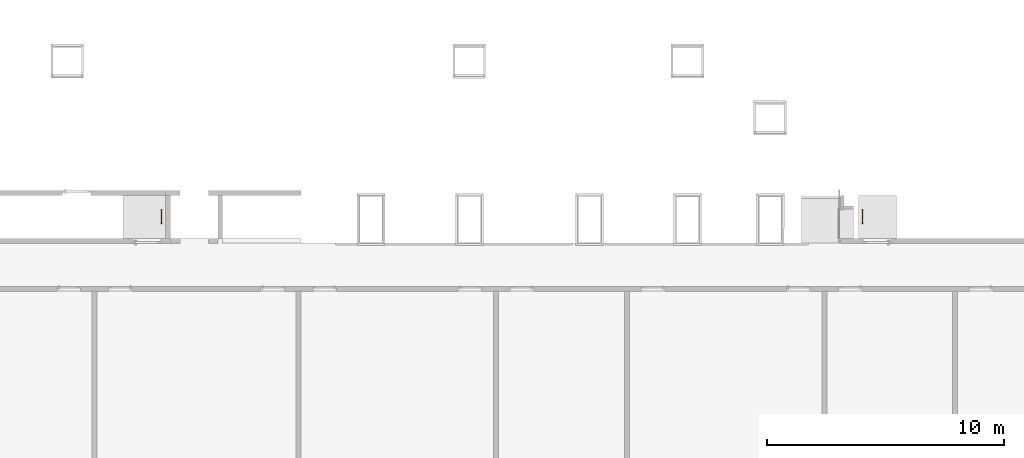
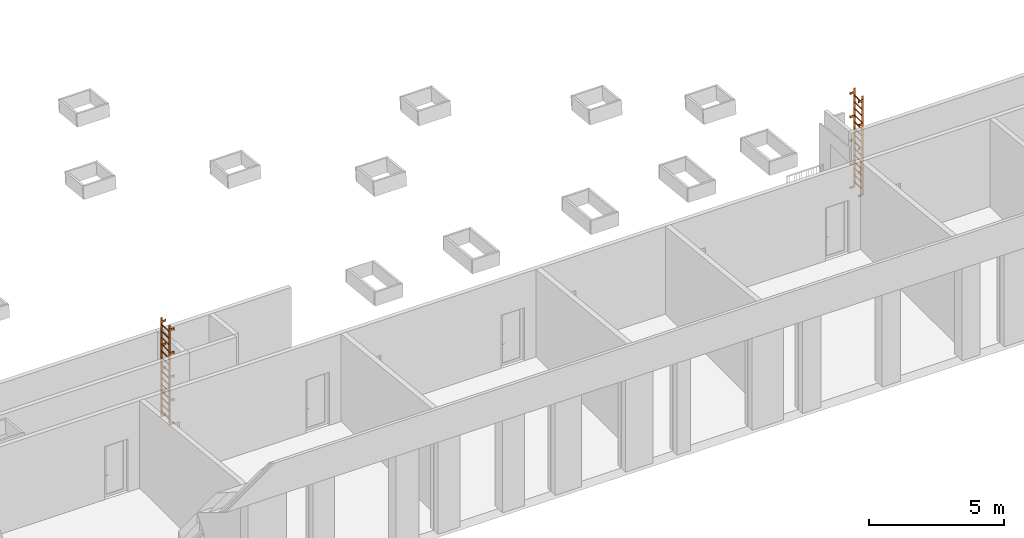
# One storey, part 23 of 23: 2 proxies.
"""IFC2X3 building model written with IfcOpenShell, lengths in millimetres."""

import ifcopenshell
import ifcopenshell.guid

model = None  # the IFC model being written
_history = None  # IfcOwnerHistory: only IFC2X3 demands one
_inside = {}  # id of a spatial element -> (the spatial element, [elements in it])
_under = {}  # id of a project, library or spatial element -> (it, [spatial elements below it])
_declared = {}  # id of a project -> (the project, [libraries it declares])
_typed = {}  # id of a type object -> (the type object, [elements of that type])
_made_of = {}  # id of a material, layer set ... -> (it, [elements and type objects made of it])


def new_model(schema):
    """Start an empty IFC model of exactly this schema.

    Asked for "IFC4X3", IfcOpenShell would pick the latest addendum, in which some entities
    have other attributes; the version numbers below select the first issue.
    IFC2X3 requires an IfcOwnerHistory on every rooted entity: one is made here for all.
    """
    global model, _history
    if schema == "IFC4X3":
        model = ifcopenshell.file(schema_version=(4, 3, 0, 0))
    else:
        model = ifcopenshell.file(schema=schema)
    _inside.clear()
    _under.clear()
    _declared.clear()
    _typed.clear()
    _made_of.clear()
    _history = None
    if model.schema == "IFC2X3":
        org = make("IfcOrganization", Name="unknown")
        user = make(
            "IfcPersonAndOrganization",
            ThePerson=make("IfcPerson", FamilyName="unknown"),
            TheOrganization=org,
        )
        app = make(
            "IfcApplication",
            ApplicationDeveloper=org,
            Version="unknown",
            ApplicationFullName="unknown",
            ApplicationIdentifier="unknown",
        )
        _history = make(
            "IfcOwnerHistory",
            OwningUser=user,
            OwningApplication=app,
            ChangeAction="ADDED",
            CreationDate=0,
        )
    return model


def make(cls, **values):
    """One entity of the class cls with the attributes given. An attribute that is None is left unset."""
    return model.create_entity(
        cls, **{name: value for name, value in values.items() if value is not None}
    )


def entity(cls, *values):
    """Any entity or typed value of the class cls, its attributes in the order of the schema. None: left unset."""
    e = model.create_entity(cls)
    for i, value in enumerate(values):
        if value is not None:
            e[i] = value
    return e


def rooted(cls, **values):
    """An entity with a GlobalId (a new one), such as an element, a storey or a relation."""
    return make(cls, GlobalId=ifcopenshell.guid.new(), OwnerHistory=_history, **values)


def si_unit(unit_type, name, prefix=None):
    """IfcSIUnit, for example si_unit("LENGTHUNIT", "METRE", prefix="MILLI")."""
    return make("IfcSIUnit", UnitType=unit_type, Prefix=prefix, Name=name)


def converted_unit(unit_type, name, factor, base, dimensions=None, offset=None):
    """IfcConversionBasedUnit, such as the inch: factor (a typed value) times the base unit."""
    return make(
        "IfcConversionBasedUnit"
        if offset is None
        else "IfcConversionBasedUnitWithOffset",
        ConversionOffset=offset,
        Dimensions=None
        if dimensions is None
        else entity("IfcDimensionalExponents", *dimensions),
        UnitType=unit_type,
        Name=name,
        ConversionFactor=make(
            "IfcMeasureWithUnit", ValueComponent=factor, UnitComponent=base
        ),
    )


def derived_unit(unit_type, elements):
    """IfcDerivedUnit: a product of units, each with its exponent."""
    return make(
        "IfcDerivedUnit",
        Elements=[
            make("IfcDerivedUnitElement", Unit=unit, Exponent=power)
            for unit, power in elements
        ],
        UnitType=unit_type,
    )


def money_unit(currency):
    """IfcMonetaryUnit."""
    return make("IfcMonetaryUnit", Currency=currency)


def assignment(units):
    """IfcUnitAssignment: the units of a project."""
    return None if units is None else make("IfcUnitAssignment", Units=units)


def point(xyz):
    """IfcCartesianPoint."""
    return None if xyz is None else make("IfcCartesianPoint", Coordinates=xyz)


def direction(xyz):
    """IfcDirection."""
    return None if xyz is None else make("IfcDirection", DirectionRatios=xyz)


def frame(location, z_axis=None, x_axis=None):
    """IfcAxis2Placement3D, a coordinate frame: its origin and axes. An axis left out is left unset."""
    return make(
        "IfcAxis2Placement3D",
        Location=point(location),
        Axis=direction(z_axis),
        RefDirection=direction(x_axis),
    )


def origin_with_axes():
    """The frame at (0, 0, 0) with the z axis (0, 0, 1) and the x axis (1, 0, 0) written out."""
    return frame((0.0, 0.0, 0.0), z_axis=(0.0, 0.0, 1.0), x_axis=(1.0, 0.0, 0.0))


def place(relative_to, where):
    """IfcLocalPlacement: puts the frame where relative to a parent placement (None: the world)."""
    return make(
        "IfcLocalPlacement", PlacementRelTo=relative_to, RelativePlacement=where
    )


def context(
    kind, dimensions, precision=None, world=None, true_north=None, identifier=None
):
    """IfcGeometricRepresentationContext, for example the 3D "Model" context."""
    return make(
        "IfcGeometricRepresentationContext",
        ContextIdentifier=identifier,
        ContextType=kind,
        CoordinateSpaceDimension=dimensions,
        Precision=precision,
        WorldCoordinateSystem=world,
        TrueNorth=true_north,
    )


def subcontext(parent, identifier, kind, view, scale=None):
    """IfcGeometricRepresentationSubContext, for example "Body" below "Model"."""
    return make(
        "IfcGeometricRepresentationSubContext",
        ContextIdentifier=identifier,
        ContextType=kind,
        ParentContext=parent,
        TargetScale=scale,
        TargetView=view,
    )


def project(units=None, contexts=None):
    """IfcProject with its units and contexts."""
    return rooted(
        "IfcProject",
        Name="project",
        RepresentationContexts=contexts,
        UnitsInContext=assignment(units),
    )


def spatial(cls, under=None, at=None, **own):
    """A site, building, storey or space (cls), placed at a placement, below another one or the project."""
    s = rooted(cls, ObjectPlacement=at, **own)
    if under is not None:
        _under.setdefault(under.id(), (under, []))[1].append(s)
    return s


def faces_of(points, faces, orient=None, outer=None):
    """IfcFace entities. A face is a list of loops; a loop is a list of indices into points, from 0.

    orient and outer hold one flag for each loop. By default every Orientation is true, the
    first loop of a face is its IfcFaceOuterBound and the others are IfcFaceBound.
    """
    made = []
    for i, loops in enumerate(faces):
        bounds = []
        for j, loop in enumerate(loops):
            is_outer = j == 0 if outer is None else outer[i][j]
            bounds.append(
                make(
                    "IfcFaceOuterBound" if is_outer else "IfcFaceBound",
                    Bound=make("IfcPolyLoop", Polygon=[points[k] for k in loop]),
                    Orientation=True if orient is None else orient[i][j],
                )
            )
        made.append(make("IfcFace", Bounds=bounds))
    return made


def faceted_brep(points, faces, orient=None, outer=None, voids=None):
    """IfcFacetedBrep: a solid bounded by flat faces; with voids (closed shells), ...WithVoids."""
    shared = [point(p) for p in points]
    hull = make("IfcClosedShell", CfsFaces=faces_of(shared, faces, orient, outer))
    if voids is None:
        return make("IfcFacetedBrep", Outer=hull)
    return make(
        "IfcFacetedBrepWithVoids",
        Outer=hull,
        Voids=[
            make(cls, CfsFaces=faces_of(shared, fs, o, b)) for cls, fs, o, b in voids
        ],
    )


def shape(context_of_items, identifier, shape_type, items):
    """IfcShapeRepresentation: the items that make up one representation, for example the "Body"."""
    return make(
        "IfcShapeRepresentation",
        ContextOfItems=context_of_items,
        RepresentationIdentifier=identifier,
        RepresentationType=shape_type,
        Items=items,
    )


def made_of(thing, what):
    """Note that an element or type object is made of a material, layer set ...; save() writes the relation."""
    if what is not None:
        _made_of.setdefault(what.id(), (what, []))[1].append(thing)
    return thing


def type_object(cls, material=None, **own):
    """A type object (cls), such as IfcWallType, which elements share."""
    return made_of(rooted(cls, **own), material)


def element(
    cls,
    number,
    at=None,
    inside=None,
    cuts=None,
    type_object=None,
    material=None,
    context=None,
    identifier="Body",
    shape_type=None,
    held_by="IfcProductDefinitionShape",
    body=None,
    shapes=None,
    **own,
):
    """One element of the class cls, such as IfcWall. Its Tag is "e" and its number.

    at: its placement. inside: the storey or other place that contains it. cuts: it is an
    opening in that element (IfcRelVoidsElement). A single representation is given by context,
    identifier, shape_type and body (its items); several are given by shapes. held_by: the class
    of the entity that holds the representations. save() writes the other relations.
    """
    e = rooted(cls, Tag="e%d" % number, ObjectPlacement=at, **own)
    if body is not None:
        shapes = [shape(context, identifier, shape_type, body)]
    if shapes is not None:
        e.Representation = make(held_by, Representations=shapes)
    if inside is not None:
        _inside.setdefault(inside.id(), (inside, []))[1].append(e)
    if cuts is not None:
        rooted(
            "IfcRelVoidsElement", RelatingBuildingElement=cuts, RelatedOpeningElement=e
        )
    if type_object is not None:
        _typed.setdefault(type_object.id(), (type_object, []))[1].append(e)
    return made_of(e, material)


def aggregate(whole, parts):
    """IfcRelAggregates: a whole, such as a stair, and the parts it consists of."""
    return rooted("IfcRelAggregates", RelatingObject=whole, RelatedObjects=parts)


def save(model, path):
    """Write the relations noted so far, then the file.

    IfcRelAggregates (storeys below a building ...), IfcRelContainedInSpatialStructure (elements
    in a storey), IfcRelDefinesByType, IfcRelAssociatesMaterial and IfcRelDeclares: one each for
    every whole, place, type object, material and project.
    """
    for whole, parts in _under.values():
        aggregate(whole, parts)
    for where, things in _inside.values():
        rooted(
            "IfcRelContainedInSpatialStructure",
            RelatedElements=things,
            RelatingStructure=where,
        )
    for kind, things in _typed.values():
        rooted("IfcRelDefinesByType", RelatedObjects=things, RelatingType=kind)
    for what, things in _made_of.values():
        rooted("IfcRelAssociatesMaterial", RelatedObjects=things, RelatingMaterial=what)
    for by, libraries in _declared.values():
        rooted("IfcRelDeclares", RelatingContext=by, RelatedDefinitions=libraries)
    model.write(path)


model = new_model("IFC2X3")

# Units and contexts
model_context = context("Model", 3, precision=0.01, world=origin_with_axes(), true_north=direction((0.0, 1.0)))
body_context = subcontext(model_context, "Body", "Model", "MODEL_VIEW")
ifc_project = project(units=[si_unit("LENGTHUNIT", "METRE", prefix="MILLI"), si_unit("AREAUNIT", "SQUARE_METRE"), si_unit("VOLUMEUNIT", "CUBIC_METRE"), converted_unit("PLANEANGLEUNIT", "DEGREE", entity("IfcPlaneAngleMeasure", 0.0174532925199), si_unit("PLANEANGLEUNIT", "RADIAN"), dimensions=[0, 0, 0, 0, 0, 0, 0]), si_unit("SOLIDANGLEUNIT", "STERADIAN"), money_unit("EUR"), converted_unit("TIMEUNIT", "Year", entity("IfcTimeMeasure", 31556926.0), si_unit("TIMEUNIT", "SECOND"), dimensions=[0, 0, 1, 0, 0, 0, 0]), si_unit("MASSUNIT", "GRAM", prefix="KILO"), si_unit("THERMODYNAMICTEMPERATUREUNIT", "DEGREE_CELSIUS"), si_unit("LUMINOUSINTENSITYUNIT", "LUMEN"), si_unit("ENERGYUNIT", "JOULE", prefix="MEGA"), derived_unit("THERMALCONDUCTANCEUNIT", [(si_unit("POWERUNIT", "WATT"), 1), (si_unit("LENGTHUNIT", "METRE"), -1), (si_unit("THERMODYNAMICTEMPERATUREUNIT", "KELVIN"), -1)]), derived_unit("SPECIFICHEATCAPACITYUNIT", [(si_unit("ENERGYUNIT", "JOULE"), 1), (si_unit("MASSUNIT", "GRAM", prefix="KILO"), -1), (si_unit("THERMODYNAMICTEMPERATUREUNIT", "KELVIN"), -1)]), derived_unit("MASSDENSITYUNIT", [(si_unit("MASSUNIT", "GRAM", prefix="KILO"), 1), (si_unit("VOLUMEUNIT", "CUBIC_METRE"), -1)])], contexts=[model_context])

# Site, building, storey
site_placement = place(None, origin_with_axes())
site = spatial("IfcSite", under=ifc_project, at=site_placement, Name="L.Koidula tn 11b", CompositionType="ELEMENT")
building_placement = place(site_placement, origin_with_axes())
building = spatial("IfcBuilding", under=site, at=building_placement, Name="Rakvere Riigigümnaasium", CompositionType="ELEMENT")
storey_placement = place(building_placement, frame((0.0, 0.0, 7440.0), z_axis=(0.0, 0.0, 1.0), x_axis=(1.0, 0.0, 0.0)))
storey = spatial("IfcBuildingStorey", under=building, at=storey_placement, Name="3.korrus +7,44", CompositionType="ELEMENT", Elevation=7440.0)

# Proxies
building_element_proxy_type = type_object("IfcBuildingElementProxyType", Name="Wall Mounted Ladder 23", PredefinedType="NOTDEFINED")
proxy_1_placement = place(storey_placement, frame((46999.9999935, 16208.5416696, 0.0), z_axis=(0.0, 0.0, 1.0), x_axis=(0.0, -1.0, 0.0)))
element("IfcBuildingElementProxy", 1, at=proxy_1_placement, inside=storey, type_object=building_element_proxy_type, Name="R-01", context=body_context, shape_type="Brep", body=[
    faceted_brep([(350.8, 0.0, 101.6), (350.8, 0.0, 203.2), (350.8, -12.7, 203.2), (350.8, -12.7, 101.6), (300.0, 0.0, 101.6), (300.0, 0.0, 203.2), (300.0, -215.9, 203.2), (312.7, -215.9, 203.2), (312.7, -12.7, 203.2), (312.7, -12.7, 101.6), (312.7, -215.9, 101.6), (300.0, -215.9, 101.6)], [[[0, 1, 2, 3]], [[4, 5, 1, 0]], [[1, 5, 6, 7, 8, 2]], [[3, 2, 8, 9]], [[0, 3, 9, 10, 11, 4]], [[11, 6, 5, 4]], [[10, 7, 6, 11]], [[9, 8, 7, 10]]]),
    faceted_brep([(350.8, 0.0, 1163.1), (350.8, 0.0, 1264.7), (350.8, -12.7, 1264.7), (350.8, -12.7, 1163.1), (300.0, 0.0, 1163.1), (300.0, 0.0, 1264.7), (300.0, -215.9, 1264.7), (312.7, -215.9, 1264.7), (312.7, -12.7, 1264.7), (312.7, -12.7, 1163.1), (312.7, -215.9, 1163.1), (300.0, -215.9, 1163.1)], [[[0, 1, 2, 3]], [[4, 5, 1, 0]], [[1, 5, 6, 7, 8, 2]], [[3, 2, 8, 9]], [[0, 3, 9, 10, 11, 4]], [[11, 6, 5, 4]], [[10, 7, 6, 11]], [[9, 8, 7, 10]]]),
    faceted_brep([(350.8, 0.0, 2224.6), (350.8, 0.0, 2326.2), (350.8, -12.7, 2326.2), (350.8, -12.7, 2224.6), (300.0, 0.0, 2224.6), (300.0, 0.0, 2326.2), (300.0, -215.9, 2326.2), (312.7, -215.9, 2326.2), (312.7, -12.7, 2326.2), (312.7, -12.7, 2224.6), (312.7, -215.9, 2224.6), (300.0, -215.9, 2224.6)], [[[0, 1, 2, 3]], [[4, 5, 1, 0]], [[1, 5, 6, 7, 8, 2]], [[3, 2, 8, 9]], [[0, 3, 9, 10, 11, 4]], [[11, 6, 5, 4]], [[10, 7, 6, 11]], [[9, 8, 7, 10]]]),
    faceted_brep([(350.8, 0.0, 3286.1), (350.8, 0.0, 3387.7), (350.8, -12.7, 3387.7), (350.8, -12.7, 3286.1), (300.0, 0.0, 3286.1), (300.0, 0.0, 3387.7), (300.0, -215.9, 3387.7), (312.7, -215.9, 3387.7), (312.7, -12.7, 3387.7), (312.7, -12.7, 3286.1), (312.7, -215.9, 3286.1), (300.0, -215.9, 3286.1)], [[[0, 1, 2, 3]], [[4, 5, 1, 0]], [[1, 5, 6, 7, 8, 2]], [[3, 2, 8, 9]], [[0, 3, 9, 10, 11, 4]], [[11, 6, 5, 4]], [[10, 7, 6, 11]], [[9, 8, 7, 10]]]),
    faceted_brep([(350.8, 0.0, 4347.6), (350.8, 0.0, 4449.2), (350.8, -12.7, 4449.2), (350.8, -12.7, 4347.6), (300.0, 0.0, 4347.6), (300.0, 0.0, 4449.2), (300.0, -215.9, 4449.2), (312.7, -215.9, 4449.2), (312.7, -12.7, 4449.2), (312.7, -12.7, 4347.6), (312.7, -215.9, 4347.6), (300.0, -215.9, 4347.6)], [[[0, 1, 2, 3]], [[4, 5, 1, 0]], [[1, 5, 6, 7, 8, 2]], [[3, 2, 8, 9]], [[0, 3, 9, 10, 11, 4]], [[11, 6, 5, 4]], [[10, 7, 6, 11]], [[9, 8, 7, 10]]]),
    faceted_brep([(-300.0, 0.0, 101.6), (-300.0, 0.0, 203.2), (-300.0, -215.9, 203.2), (-300.0, -215.9, 101.6), (-350.8, 0.0, 101.6), (-350.8, 0.0, 203.2), (-350.8, -12.7, 203.2), (-312.7, -12.7, 203.2), (-312.7, -215.9, 203.2), (-312.7, -215.9, 101.6), (-312.7, -12.7, 101.6), (-350.8, -12.7, 101.6)], [[[0, 1, 2, 3]], [[4, 5, 1, 0]], [[1, 5, 6, 7, 8, 2]], [[3, 2, 8, 9]], [[0, 3, 9, 10, 11, 4]], [[11, 6, 5, 4]], [[10, 7, 6, 11]], [[9, 8, 7, 10]]]),
    faceted_brep([(-300.0, 0.0, 1163.1), (-300.0, 0.0, 1264.7), (-300.0, -215.9, 1264.7), (-300.0, -215.9, 1163.1), (-350.8, 0.0, 1163.1), (-350.8, 0.0, 1264.7), (-350.8, -12.7, 1264.7), (-312.7, -12.7, 1264.7), (-312.7, -215.9, 1264.7), (-312.7, -215.9, 1163.1), (-312.7, -12.7, 1163.1), (-350.8, -12.7, 1163.1)], [[[0, 1, 2, 3]], [[4, 5, 1, 0]], [[1, 5, 6, 7, 8, 2]], [[3, 2, 8, 9]], [[0, 3, 9, 10, 11, 4]], [[11, 6, 5, 4]], [[10, 7, 6, 11]], [[9, 8, 7, 10]]]),
    faceted_brep([(-300.0, 0.0, 2224.6), (-300.0, 0.0, 2326.2), (-300.0, -215.9, 2326.2), (-300.0, -215.9, 2224.6), (-350.8, 0.0, 2224.6), (-350.8, 0.0, 2326.2), (-350.8, -12.7, 2326.2), (-312.7, -12.7, 2326.2), (-312.7, -215.9, 2326.2), (-312.7, -215.9, 2224.6), (-312.7, -12.7, 2224.6), (-350.8, -12.7, 2224.6)], [[[0, 1, 2, 3]], [[4, 5, 1, 0]], [[1, 5, 6, 7, 8, 2]], [[3, 2, 8, 9]], [[0, 3, 9, 10, 11, 4]], [[11, 6, 5, 4]], [[10, 7, 6, 11]], [[9, 8, 7, 10]]]),
    faceted_brep([(-300.0, 0.0, 3286.1), (-300.0, 0.0, 3387.7), (-300.0, -215.9, 3387.7), (-300.0, -215.9, 3286.1), (-350.8, 0.0, 3286.1), (-350.8, 0.0, 3387.7), (-350.8, -12.7, 3387.7), (-312.7, -12.7, 3387.7), (-312.7, -215.9, 3387.7), (-312.7, -215.9, 3286.1), (-312.7, -12.7, 3286.1), (-350.8, -12.7, 3286.1)], [[[0, 1, 2, 3]], [[4, 5, 1, 0]], [[1, 5, 6, 7, 8, 2]], [[3, 2, 8, 9]], [[0, 3, 9, 10, 11, 4]], [[11, 6, 5, 4]], [[10, 7, 6, 11]], [[9, 8, 7, 10]]]),
    faceted_brep([(-300.0, 0.0, 4347.6), (-300.0, 0.0, 4449.2), (-300.0, -215.9, 4449.2), (-300.0, -215.9, 4347.6), (-350.8, 0.0, 4347.6), (-350.8, 0.0, 4449.2), (-350.8, -12.7, 4449.2), (-312.7, -12.7, 4449.2), (-312.7, -215.9, 4449.2), (-312.7, -215.9, 4347.6), (-312.7, -12.7, 4347.6), (-350.8, -12.7, 4347.6)], [[[0, 1, 2, 3]], [[4, 5, 1, 0]], [[1, 5, 6, 7, 8, 2]], [[3, 2, 8, 9]], [[0, 3, 9, 10, 11, 4]], [[11, 6, 5, 4]], [[10, 7, 6, 11]], [[9, 8, 7, 10]]]),
    faceted_brep([(300.0, -215.9, 203.2), (300.0, -215.9, 4601.6), (287.3, -215.9, 4601.6), (287.3, -215.9, 203.2), (300.0, -139.7, 203.2), (300.0, -139.7, 4601.6), (287.3, -139.7, 4601.6), (287.3, -139.7, 203.2)], [[[0, 1, 2, 3]], [[4, 5, 1, 0]], [[1, 5, 6, 2]], [[3, 2, 6, 7]], [[0, 3, 7, 4]], [[7, 6, 5, 4]]]),
    faceted_brep([(-300.0, -139.7, 203.2), (-300.0, -139.7, 4601.6), (-287.3, -139.7, 4601.6), (-287.3, -139.7, 203.2), (-300.0, -215.9, 203.2), (-300.0, -215.9, 4601.6), (-287.3, -215.9, 4601.6), (-287.3, -215.9, 203.2)], [[[0, 1, 2, 3]], [[4, 5, 1, 0]], [[1, 5, 6, 2]], [[3, 2, 6, 7]], [[0, 3, 7, 4]], [[7, 6, 5, 4]]]),
    faceted_brep([(-287.3, -196.85, 371.6), (-287.3, -196.85, 401.6), (-287.3, -158.75, 401.6), (-287.3, -158.75, 371.6), (287.3, -196.85, 371.6), (287.3, -196.85, 401.6), (287.3, -158.75, 401.6), (287.3, -158.75, 371.6)], [[[0, 1, 2, 3]], [[4, 5, 1, 0]], [[1, 5, 6, 2]], [[3, 2, 6, 7]], [[0, 3, 7, 4]], [[7, 6, 5, 4]]]),
    faceted_brep([(-287.3, -196.85, 671.6), (-287.3, -196.85, 701.6), (-287.3, -158.75, 701.6), (-287.3, -158.75, 671.6), (287.3, -196.85, 671.6), (287.3, -196.85, 701.6), (287.3, -158.75, 701.6), (287.3, -158.75, 671.6)], [[[0, 1, 2, 3]], [[4, 5, 1, 0]], [[1, 5, 6, 2]], [[3, 2, 6, 7]], [[0, 3, 7, 4]], [[7, 6, 5, 4]]]),
    faceted_brep([(-287.3, -196.85, 971.6), (-287.3, -196.85, 1001.6), (-287.3, -158.75, 1001.6), (-287.3, -158.75, 971.6), (287.3, -196.85, 971.6), (287.3, -196.85, 1001.6), (287.3, -158.75, 1001.6), (287.3, -158.75, 971.6)], [[[0, 1, 2, 3]], [[4, 5, 1, 0]], [[1, 5, 6, 2]], [[3, 2, 6, 7]], [[0, 3, 7, 4]], [[7, 6, 5, 4]]]),
    faceted_brep([(-287.3, -196.85, 1271.6), (-287.3, -196.85, 1301.6), (-287.3, -158.75, 1301.6), (-287.3, -158.75, 1271.6), (287.3, -196.85, 1271.6), (287.3, -196.85, 1301.6), (287.3, -158.75, 1301.6), (287.3, -158.75, 1271.6)], [[[0, 1, 2, 3]], [[4, 5, 1, 0]], [[1, 5, 6, 2]], [[3, 2, 6, 7]], [[0, 3, 7, 4]], [[7, 6, 5, 4]]]),
    faceted_brep([(-287.3, -196.85, 1571.6), (-287.3, -196.85, 1601.6), (-287.3, -158.75, 1601.6), (-287.3, -158.75, 1571.6), (287.3, -196.85, 1571.6), (287.3, -196.85, 1601.6), (287.3, -158.75, 1601.6), (287.3, -158.75, 1571.6)], [[[0, 1, 2, 3]], [[4, 5, 1, 0]], [[1, 5, 6, 2]], [[3, 2, 6, 7]], [[0, 3, 7, 4]], [[7, 6, 5, 4]]]),
    faceted_brep([(-287.3, -196.85, 1871.6), (-287.3, -196.85, 1901.6), (-287.3, -158.75, 1901.6), (-287.3, -158.75, 1871.6), (287.3, -196.85, 1871.6), (287.3, -196.85, 1901.6), (287.3, -158.75, 1901.6), (287.3, -158.75, 1871.6)], [[[0, 1, 2, 3]], [[4, 5, 1, 0]], [[1, 5, 6, 2]], [[3, 2, 6, 7]], [[0, 3, 7, 4]], [[7, 6, 5, 4]]]),
    faceted_brep([(-287.3, -196.85, 2171.6), (-287.3, -196.85, 2201.6), (-287.3, -158.75, 2201.6), (-287.3, -158.75, 2171.6), (287.3, -196.85, 2171.6), (287.3, -196.85, 2201.6), (287.3, -158.75, 2201.6), (287.3, -158.75, 2171.6)], [[[0, 1, 2, 3]], [[4, 5, 1, 0]], [[1, 5, 6, 2]], [[3, 2, 6, 7]], [[0, 3, 7, 4]], [[7, 6, 5, 4]]]),
    faceted_brep([(-287.3, -196.85, 2471.6), (-287.3, -196.85, 2501.6), (-287.3, -158.75, 2501.6), (-287.3, -158.75, 2471.6), (287.3, -196.85, 2471.6), (287.3, -196.85, 2501.6), (287.3, -158.75, 2501.6), (287.3, -158.75, 2471.6)], [[[0, 1, 2, 3]], [[4, 5, 1, 0]], [[1, 5, 6, 2]], [[3, 2, 6, 7]], [[0, 3, 7, 4]], [[7, 6, 5, 4]]]),
    faceted_brep([(-287.3, -196.85, 2771.6), (-287.3, -196.85, 2801.6), (-287.3, -158.75, 2801.6), (-287.3, -158.75, 2771.6), (287.3, -196.85, 2771.6), (287.3, -196.85, 2801.6), (287.3, -158.75, 2801.6), (287.3, -158.75, 2771.6)], [[[0, 1, 2, 3]], [[4, 5, 1, 0]], [[1, 5, 6, 2]], [[3, 2, 6, 7]], [[0, 3, 7, 4]], [[7, 6, 5, 4]]]),
    faceted_brep([(-287.3, -196.85, 3071.6), (-287.3, -196.85, 3101.6), (-287.3, -158.75, 3101.6), (-287.3, -158.75, 3071.6), (287.3, -196.85, 3071.6), (287.3, -196.85, 3101.6), (287.3, -158.75, 3101.6), (287.3, -158.75, 3071.6)], [[[0, 1, 2, 3]], [[4, 5, 1, 0]], [[1, 5, 6, 2]], [[3, 2, 6, 7]], [[0, 3, 7, 4]], [[7, 6, 5, 4]]]),
    faceted_brep([(-287.3, -196.85, 3371.6), (-287.3, -196.85, 3401.6), (-287.3, -158.75, 3401.6), (-287.3, -158.75, 3371.6), (287.3, -196.85, 3371.6), (287.3, -196.85, 3401.6), (287.3, -158.75, 3401.6), (287.3, -158.75, 3371.6)], [[[0, 1, 2, 3]], [[4, 5, 1, 0]], [[1, 5, 6, 2]], [[3, 2, 6, 7]], [[0, 3, 7, 4]], [[7, 6, 5, 4]]]),
    faceted_brep([(-287.3, -196.85, 3671.6), (-287.3, -196.85, 3701.6), (-287.3, -158.75, 3701.6), (-287.3, -158.75, 3671.6), (287.3, -196.85, 3671.6), (287.3, -196.85, 3701.6), (287.3, -158.75, 3701.6), (287.3, -158.75, 3671.6)], [[[0, 1, 2, 3]], [[4, 5, 1, 0]], [[1, 5, 6, 2]], [[3, 2, 6, 7]], [[0, 3, 7, 4]], [[7, 6, 5, 4]]]),
    faceted_brep([(-287.3, -196.85, 3971.6), (-287.3, -196.85, 4001.6), (-287.3, -158.75, 4001.6), (-287.3, -158.75, 3971.6), (287.3, -196.85, 3971.6), (287.3, -196.85, 4001.6), (287.3, -158.75, 4001.6), (287.3, -158.75, 3971.6)], [[[0, 1, 2, 3]], [[4, 5, 1, 0]], [[1, 5, 6, 2]], [[3, 2, 6, 7]], [[0, 3, 7, 4]], [[7, 6, 5, 4]]]),
    faceted_brep([(-287.3, -196.85, 4271.6), (-287.3, -196.85, 4301.6), (-287.3, -158.75, 4301.6), (-287.3, -158.75, 4271.6), (287.3, -196.85, 4271.6), (287.3, -196.85, 4301.6), (287.3, -158.75, 4301.6), (287.3, -158.75, 4271.6)], [[[0, 1, 2, 3]], [[4, 5, 1, 0]], [[1, 5, 6, 2]], [[3, 2, 6, 7]], [[0, 3, 7, 4]], [[7, 6, 5, 4]]]),
])
proxy_2_placement = place(storey_placement, frame((76189.9821418, 16208.541671, 0.0), z_axis=(0.0, 0.0, 1.0), x_axis=(0.0, 1.0, 0.0)))
element("IfcBuildingElementProxy", 2, at=proxy_2_placement, inside=storey, type_object=building_element_proxy_type, Name="R-02", context=body_context, shape_type="Brep", body=[
    faceted_brep([(-350.8, 0.0, 101.6), (-350.8, -12.7, 101.6), (-350.8, -12.7, 203.2), (-350.8, 0.0, 203.2), (-300.0, 0.0, 101.6), (-300.0, -215.9, 101.6), (-312.7, -215.9, 101.6), (-312.7, -12.7, 101.6), (-312.7, -12.7, 203.2), (-312.7, -215.9, 203.2), (-300.0, -215.9, 203.2), (-300.0, 0.0, 203.2)], [[[0, 1, 2, 3]], [[0, 4, 5, 6, 7, 1]], [[1, 7, 8, 2]], [[3, 2, 8, 9, 10, 11]], [[4, 0, 3, 11]], [[5, 4, 11, 10]], [[6, 5, 10, 9]], [[7, 6, 9, 8]]]),
    faceted_brep([(-350.8, 0.0, 1163.1), (-350.8, -12.7, 1163.1), (-350.8, -12.7, 1264.7), (-350.8, 0.0, 1264.7), (-300.0, 0.0, 1163.1), (-300.0, -215.9, 1163.1), (-312.7, -215.9, 1163.1), (-312.7, -12.7, 1163.1), (-312.7, -12.7, 1264.7), (-312.7, -215.9, 1264.7), (-300.0, -215.9, 1264.7), (-300.0, 0.0, 1264.7)], [[[0, 1, 2, 3]], [[0, 4, 5, 6, 7, 1]], [[1, 7, 8, 2]], [[3, 2, 8, 9, 10, 11]], [[4, 0, 3, 11]], [[5, 4, 11, 10]], [[6, 5, 10, 9]], [[7, 6, 9, 8]]]),
    faceted_brep([(-350.8, 0.0, 2224.6), (-350.8, -12.7, 2224.6), (-350.8, -12.7, 2326.2), (-350.8, 0.0, 2326.2), (-300.0, 0.0, 2224.6), (-300.0, -215.9, 2224.6), (-312.7, -215.9, 2224.6), (-312.7, -12.7, 2224.6), (-312.7, -12.7, 2326.2), (-312.7, -215.9, 2326.2), (-300.0, -215.9, 2326.2), (-300.0, 0.0, 2326.2)], [[[0, 1, 2, 3]], [[0, 4, 5, 6, 7, 1]], [[1, 7, 8, 2]], [[3, 2, 8, 9, 10, 11]], [[4, 0, 3, 11]], [[5, 4, 11, 10]], [[6, 5, 10, 9]], [[7, 6, 9, 8]]]),
    faceted_brep([(-350.8, 0.0, 3286.1), (-350.8, -12.7, 3286.1), (-350.8, -12.7, 3387.7), (-350.8, 0.0, 3387.7), (-300.0, 0.0, 3286.1), (-300.0, -215.9, 3286.1), (-312.7, -215.9, 3286.1), (-312.7, -12.7, 3286.1), (-312.7, -12.7, 3387.7), (-312.7, -215.9, 3387.7), (-300.0, -215.9, 3387.7), (-300.0, 0.0, 3387.7)], [[[0, 1, 2, 3]], [[0, 4, 5, 6, 7, 1]], [[1, 7, 8, 2]], [[3, 2, 8, 9, 10, 11]], [[4, 0, 3, 11]], [[5, 4, 11, 10]], [[6, 5, 10, 9]], [[7, 6, 9, 8]]]),
    faceted_brep([(-350.8, 0.0, 4347.6), (-350.8, -12.7, 4347.6), (-350.8, -12.7, 4449.2), (-350.8, 0.0, 4449.2), (-300.0, 0.0, 4347.6), (-300.0, -215.9, 4347.6), (-312.7, -215.9, 4347.6), (-312.7, -12.7, 4347.6), (-312.7, -12.7, 4449.2), (-312.7, -215.9, 4449.2), (-300.0, -215.9, 4449.2), (-300.0, 0.0, 4449.2)], [[[0, 1, 2, 3]], [[0, 4, 5, 6, 7, 1]], [[1, 7, 8, 2]], [[3, 2, 8, 9, 10, 11]], [[4, 0, 3, 11]], [[5, 4, 11, 10]], [[6, 5, 10, 9]], [[7, 6, 9, 8]]]),
    faceted_brep([(300.0, 0.0, 101.6), (300.0, -215.9, 101.6), (300.0, -215.9, 203.2), (300.0, 0.0, 203.2), (350.8, 0.0, 101.6), (350.8, -12.7, 101.6), (312.7, -12.7, 101.6), (312.7, -215.9, 101.6), (312.7, -215.9, 203.2), (312.7, -12.7, 203.2), (350.8, -12.7, 203.2), (350.8, 0.0, 203.2)], [[[0, 1, 2, 3]], [[0, 4, 5, 6, 7, 1]], [[1, 7, 8, 2]], [[3, 2, 8, 9, 10, 11]], [[4, 0, 3, 11]], [[5, 4, 11, 10]], [[6, 5, 10, 9]], [[7, 6, 9, 8]]]),
    faceted_brep([(300.0, 0.0, 1163.1), (300.0, -215.9, 1163.1), (300.0, -215.9, 1264.7), (300.0, 0.0, 1264.7), (350.8, 0.0, 1163.1), (350.8, -12.7, 1163.1), (312.7, -12.7, 1163.1), (312.7, -215.9, 1163.1), (312.7, -215.9, 1264.7), (312.7, -12.7, 1264.7), (350.8, -12.7, 1264.7), (350.8, 0.0, 1264.7)], [[[0, 1, 2, 3]], [[0, 4, 5, 6, 7, 1]], [[1, 7, 8, 2]], [[3, 2, 8, 9, 10, 11]], [[4, 0, 3, 11]], [[5, 4, 11, 10]], [[6, 5, 10, 9]], [[7, 6, 9, 8]]]),
    faceted_brep([(300.0, 0.0, 2224.6), (300.0, -215.9, 2224.6), (300.0, -215.9, 2326.2), (300.0, 0.0, 2326.2), (350.8, 0.0, 2224.6), (350.8, -12.7, 2224.6), (312.7, -12.7, 2224.6), (312.7, -215.9, 2224.6), (312.7, -215.9, 2326.2), (312.7, -12.7, 2326.2), (350.8, -12.7, 2326.2), (350.8, 0.0, 2326.2)], [[[0, 1, 2, 3]], [[0, 4, 5, 6, 7, 1]], [[1, 7, 8, 2]], [[3, 2, 8, 9, 10, 11]], [[4, 0, 3, 11]], [[5, 4, 11, 10]], [[6, 5, 10, 9]], [[7, 6, 9, 8]]]),
    faceted_brep([(300.0, 0.0, 3286.1), (300.0, -215.9, 3286.1), (300.0, -215.9, 3387.7), (300.0, 0.0, 3387.7), (350.8, 0.0, 3286.1), (350.8, -12.7, 3286.1), (312.7, -12.7, 3286.1), (312.7, -215.9, 3286.1), (312.7, -215.9, 3387.7), (312.7, -12.7, 3387.7), (350.8, -12.7, 3387.7), (350.8, 0.0, 3387.7)], [[[0, 1, 2, 3]], [[0, 4, 5, 6, 7, 1]], [[1, 7, 8, 2]], [[3, 2, 8, 9, 10, 11]], [[4, 0, 3, 11]], [[5, 4, 11, 10]], [[6, 5, 10, 9]], [[7, 6, 9, 8]]]),
    faceted_brep([(300.0, 0.0, 4347.6), (300.0, -215.9, 4347.6), (300.0, -215.9, 4449.2), (300.0, 0.0, 4449.2), (350.8, 0.0, 4347.6), (350.8, -12.7, 4347.6), (312.7, -12.7, 4347.6), (312.7, -215.9, 4347.6), (312.7, -215.9, 4449.2), (312.7, -12.7, 4449.2), (350.8, -12.7, 4449.2), (350.8, 0.0, 4449.2)], [[[0, 1, 2, 3]], [[0, 4, 5, 6, 7, 1]], [[1, 7, 8, 2]], [[3, 2, 8, 9, 10, 11]], [[4, 0, 3, 11]], [[5, 4, 11, 10]], [[6, 5, 10, 9]], [[7, 6, 9, 8]]]),
    faceted_brep([(-300.0, -215.9, 203.2), (-287.3, -215.9, 203.2), (-287.3, -215.9, 4601.6), (-300.0, -215.9, 4601.6), (-300.0, -139.7, 203.2), (-287.3, -139.7, 203.2), (-287.3, -139.7, 4601.6), (-300.0, -139.7, 4601.6)], [[[0, 1, 2, 3]], [[0, 4, 5, 1]], [[1, 5, 6, 2]], [[3, 2, 6, 7]], [[4, 0, 3, 7]], [[5, 4, 7, 6]]]),
    faceted_brep([(300.0, -139.7, 203.2), (287.3, -139.7, 203.2), (287.3, -139.7, 4601.6), (300.0, -139.7, 4601.6), (300.0, -215.9, 203.2), (287.3, -215.9, 203.2), (287.3, -215.9, 4601.6), (300.0, -215.9, 4601.6)], [[[0, 1, 2, 3]], [[0, 4, 5, 1]], [[1, 5, 6, 2]], [[3, 2, 6, 7]], [[4, 0, 3, 7]], [[5, 4, 7, 6]]]),
    faceted_brep([(287.3, -196.85, 371.6), (287.3, -158.75, 371.6), (287.3, -158.75, 401.6), (287.3, -196.85, 401.6), (-287.3, -196.85, 371.6), (-287.3, -158.75, 371.6), (-287.3, -158.75, 401.6), (-287.3, -196.85, 401.6)], [[[0, 1, 2, 3]], [[0, 4, 5, 1]], [[1, 5, 6, 2]], [[3, 2, 6, 7]], [[4, 0, 3, 7]], [[5, 4, 7, 6]]]),
    faceted_brep([(287.3, -196.85, 671.6), (287.3, -158.75, 671.6), (287.3, -158.75, 701.6), (287.3, -196.85, 701.6), (-287.3, -196.85, 671.6), (-287.3, -158.75, 671.6), (-287.3, -158.75, 701.6), (-287.3, -196.85, 701.6)], [[[0, 1, 2, 3]], [[0, 4, 5, 1]], [[1, 5, 6, 2]], [[3, 2, 6, 7]], [[4, 0, 3, 7]], [[5, 4, 7, 6]]]),
    faceted_brep([(287.3, -196.85, 971.6), (287.3, -158.75, 971.6), (287.3, -158.75, 1001.6), (287.3, -196.85, 1001.6), (-287.3, -196.85, 971.6), (-287.3, -158.75, 971.6), (-287.3, -158.75, 1001.6), (-287.3, -196.85, 1001.6)], [[[0, 1, 2, 3]], [[0, 4, 5, 1]], [[1, 5, 6, 2]], [[3, 2, 6, 7]], [[4, 0, 3, 7]], [[5, 4, 7, 6]]]),
    faceted_brep([(287.3, -196.85, 1271.6), (287.3, -158.75, 1271.6), (287.3, -158.75, 1301.6), (287.3, -196.85, 1301.6), (-287.3, -196.85, 1271.6), (-287.3, -158.75, 1271.6), (-287.3, -158.75, 1301.6), (-287.3, -196.85, 1301.6)], [[[0, 1, 2, 3]], [[0, 4, 5, 1]], [[1, 5, 6, 2]], [[3, 2, 6, 7]], [[4, 0, 3, 7]], [[5, 4, 7, 6]]]),
    faceted_brep([(287.3, -196.85, 1571.6), (287.3, -158.75, 1571.6), (287.3, -158.75, 1601.6), (287.3, -196.85, 1601.6), (-287.3, -196.85, 1571.6), (-287.3, -158.75, 1571.6), (-287.3, -158.75, 1601.6), (-287.3, -196.85, 1601.6)], [[[0, 1, 2, 3]], [[0, 4, 5, 1]], [[1, 5, 6, 2]], [[3, 2, 6, 7]], [[4, 0, 3, 7]], [[5, 4, 7, 6]]]),
    faceted_brep([(287.3, -196.85, 1871.6), (287.3, -158.75, 1871.6), (287.3, -158.75, 1901.6), (287.3, -196.85, 1901.6), (-287.3, -196.85, 1871.6), (-287.3, -158.75, 1871.6), (-287.3, -158.75, 1901.6), (-287.3, -196.85, 1901.6)], [[[0, 1, 2, 3]], [[0, 4, 5, 1]], [[1, 5, 6, 2]], [[3, 2, 6, 7]], [[4, 0, 3, 7]], [[5, 4, 7, 6]]]),
    faceted_brep([(287.3, -196.85, 2171.6), (287.3, -158.75, 2171.6), (287.3, -158.75, 2201.6), (287.3, -196.85, 2201.6), (-287.3, -196.85, 2171.6), (-287.3, -158.75, 2171.6), (-287.3, -158.75, 2201.6), (-287.3, -196.85, 2201.6)], [[[0, 1, 2, 3]], [[0, 4, 5, 1]], [[1, 5, 6, 2]], [[3, 2, 6, 7]], [[4, 0, 3, 7]], [[5, 4, 7, 6]]]),
    faceted_brep([(287.3, -196.85, 2471.6), (287.3, -158.75, 2471.6), (287.3, -158.75, 2501.6), (287.3, -196.85, 2501.6), (-287.3, -196.85, 2471.6), (-287.3, -158.75, 2471.6), (-287.3, -158.75, 2501.6), (-287.3, -196.85, 2501.6)], [[[0, 1, 2, 3]], [[0, 4, 5, 1]], [[1, 5, 6, 2]], [[3, 2, 6, 7]], [[4, 0, 3, 7]], [[5, 4, 7, 6]]]),
    faceted_brep([(287.3, -196.85, 2771.6), (287.3, -158.75, 2771.6), (287.3, -158.75, 2801.6), (287.3, -196.85, 2801.6), (-287.3, -196.85, 2771.6), (-287.3, -158.75, 2771.6), (-287.3, -158.75, 2801.6), (-287.3, -196.85, 2801.6)], [[[0, 1, 2, 3]], [[0, 4, 5, 1]], [[1, 5, 6, 2]], [[3, 2, 6, 7]], [[4, 0, 3, 7]], [[5, 4, 7, 6]]]),
    faceted_brep([(287.3, -196.85, 3071.6), (287.3, -158.75, 3071.6), (287.3, -158.75, 3101.6), (287.3, -196.85, 3101.6), (-287.3, -196.85, 3071.6), (-287.3, -158.75, 3071.6), (-287.3, -158.75, 3101.6), (-287.3, -196.85, 3101.6)], [[[0, 1, 2, 3]], [[0, 4, 5, 1]], [[1, 5, 6, 2]], [[3, 2, 6, 7]], [[4, 0, 3, 7]], [[5, 4, 7, 6]]]),
    faceted_brep([(287.3, -196.85, 3371.6), (287.3, -158.75, 3371.6), (287.3, -158.75, 3401.6), (287.3, -196.85, 3401.6), (-287.3, -196.85, 3371.6), (-287.3, -158.75, 3371.6), (-287.3, -158.75, 3401.6), (-287.3, -196.85, 3401.6)], [[[0, 1, 2, 3]], [[0, 4, 5, 1]], [[1, 5, 6, 2]], [[3, 2, 6, 7]], [[4, 0, 3, 7]], [[5, 4, 7, 6]]]),
    faceted_brep([(287.3, -196.85, 3671.6), (287.3, -158.75, 3671.6), (287.3, -158.75, 3701.6), (287.3, -196.85, 3701.6), (-287.3, -196.85, 3671.6), (-287.3, -158.75, 3671.6), (-287.3, -158.75, 3701.6), (-287.3, -196.85, 3701.6)], [[[0, 1, 2, 3]], [[0, 4, 5, 1]], [[1, 5, 6, 2]], [[3, 2, 6, 7]], [[4, 0, 3, 7]], [[5, 4, 7, 6]]]),
    faceted_brep([(287.3, -196.85, 3971.6), (287.3, -158.75, 3971.6), (287.3, -158.75, 4001.6), (287.3, -196.85, 4001.6), (-287.3, -196.85, 3971.6), (-287.3, -158.75, 3971.6), (-287.3, -158.75, 4001.6), (-287.3, -196.85, 4001.6)], [[[0, 1, 2, 3]], [[0, 4, 5, 1]], [[1, 5, 6, 2]], [[3, 2, 6, 7]], [[4, 0, 3, 7]], [[5, 4, 7, 6]]]),
    faceted_brep([(287.3, -196.85, 4271.6), (287.3, -158.75, 4271.6), (287.3, -158.75, 4301.6), (287.3, -196.85, 4301.6), (-287.3, -196.85, 4271.6), (-287.3, -158.75, 4271.6), (-287.3, -158.75, 4301.6), (-287.3, -196.85, 4301.6)], [[[0, 1, 2, 3]], [[0, 4, 5, 1]], [[1, 5, 6, 2]], [[3, 2, 6, 7]], [[4, 0, 3, 7]], [[5, 4, 7, 6]]]),
])

save(model, "model.ifc")
